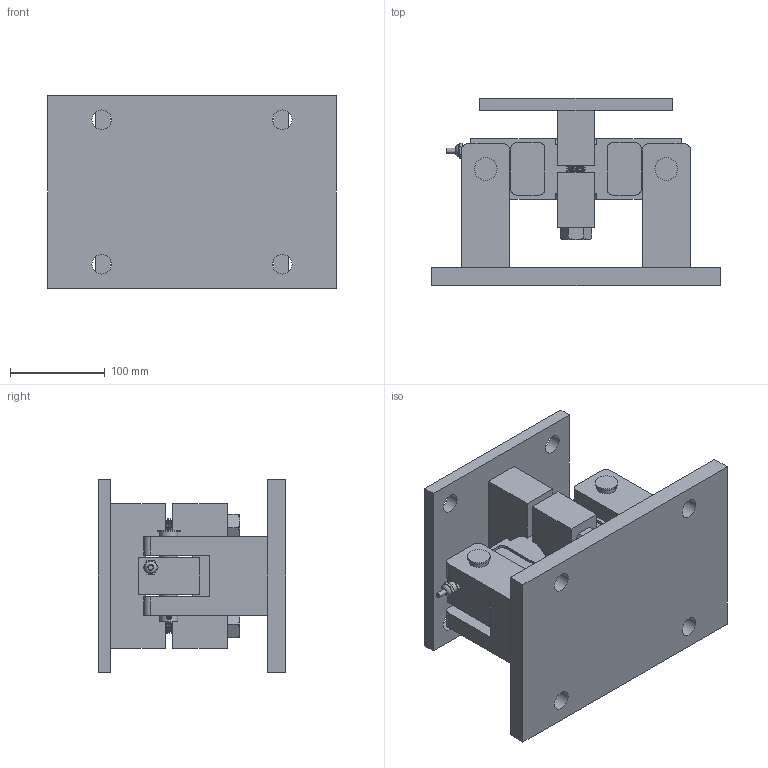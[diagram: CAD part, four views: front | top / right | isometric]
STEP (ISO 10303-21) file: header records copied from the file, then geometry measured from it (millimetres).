
FILE_DESCRIPTION(/* description */ (''),/* implementation_level */ '2;1');
FILE_NAME(/* name */ 'C:/Users/fardi/Dropbox/Work/Anyload/Load Cell Models/Product Catalog 3D/Weight Modules/102/102EHM2/102EHM2-35klb v2.step',/* time_stamp */ '2020-04-17T12:23:21-07:00',/* author */ (''),/* organization */ (''),/* preprocessor_version */ 'ST-DEVELOPER v18.1',/* originating_system */ 'Autodesk Translation Framework v9.2.0.1227',/* authorisation */ '');
FILE_SCHEMA (('AUTOMOTIVE_DESIGN { 1 0 10303 214 3 1 1 }'));
Length unit declared in the file: millimetre
Products named in the file (7): 102EHM2-35klb; Base; 102EH-35klb; Connector; Pins; Top; 91257A850
Assembly tree (7 placements, depth 3):
  102EHM2-35klb
    Base
    102EH-35klb
      Connector
    Pins
    Top
    91257A850  x2
Bounding box: 304.8 x 197.45 x 203.2 mm (x, y, z)
Volume: 3525560.8 mm3; surface area: 471407.3 mm2
Topology: 9 solids, 9 shells, 447 faces, 1167 edges, 766 vertices
Faces by surface type: cylinder 259, plane 160, cone 19, bspline 9
Full cylindrical faces by diameter (mm): 4.8 x2, 5.1 x1, 10 x1, 12 x2, 13 x1, 15.75 x32, 16.573 x52, 19 x2, 19.05 x82, 20.066 x2, 20.3 x4, 20.6 x10, 24 x2
Entity records: 24939 total; most frequent: CARTESIAN_POINT 16307, ORIENTED_EDGE 1880, DIRECTION 1545, EDGE_CURVE 940, VERTEX_POINT 617, AXIS2_PLACEMENT_3D 533, LINE 479, VECTOR 479
